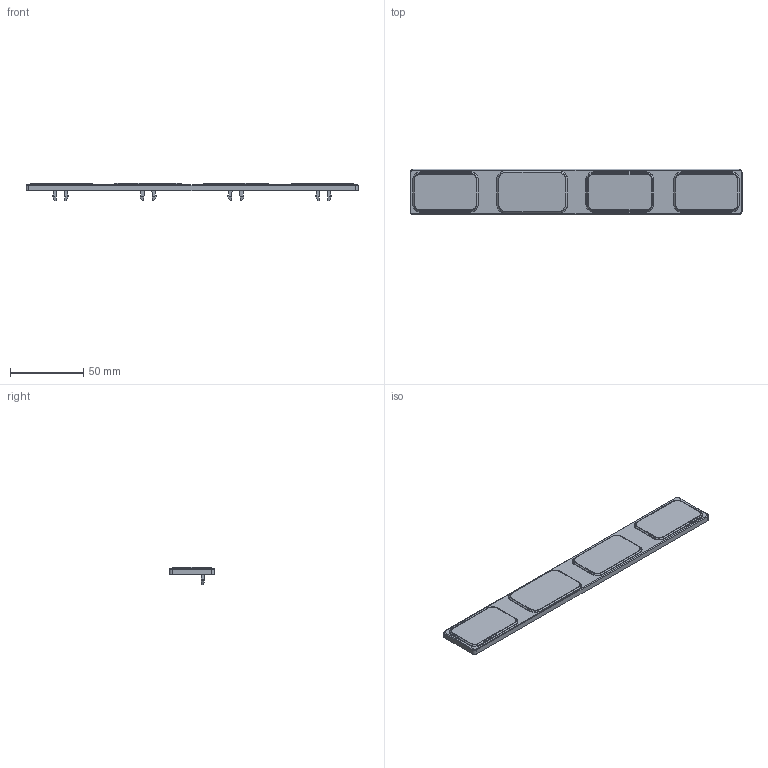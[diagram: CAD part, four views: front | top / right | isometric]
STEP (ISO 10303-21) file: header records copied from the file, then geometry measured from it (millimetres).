
FILE_DESCRIPTION (( 'STEP AP214' ), '1' );
FILE_NAME ('53131.STEP', '2021-08-11T06:02:23', ( '' ), ( '' ), 'SwSTEP 2.0', 'SolidWorks 2017', '' );
FILE_SCHEMA (( 'AUTOMOTIVE_DESIGN' ));
Length unit declared in the file: millimetre
Products named in the file (2): 53131
Bounding box: 227 x 31 x 11.8 mm (x, y, z)
Volume: 33021.7 mm3; surface area: 16642.3 mm2
Topology: 1 solids, 1 shells, 198 faces, 464 edges, 280 vertices
Faces by surface type: plane 106, cylinder 40, bspline 36, cone 16
Entity records: 8148 total; most frequent: CARTESIAN_POINT 1592, ORIENTED_EDGE 928, DIRECTION 868, EDGE_CURVE 464, VECTOR 316, LINE 316, VERTEX_POINT 280, AXIS2_PLACEMENT_3D 276
